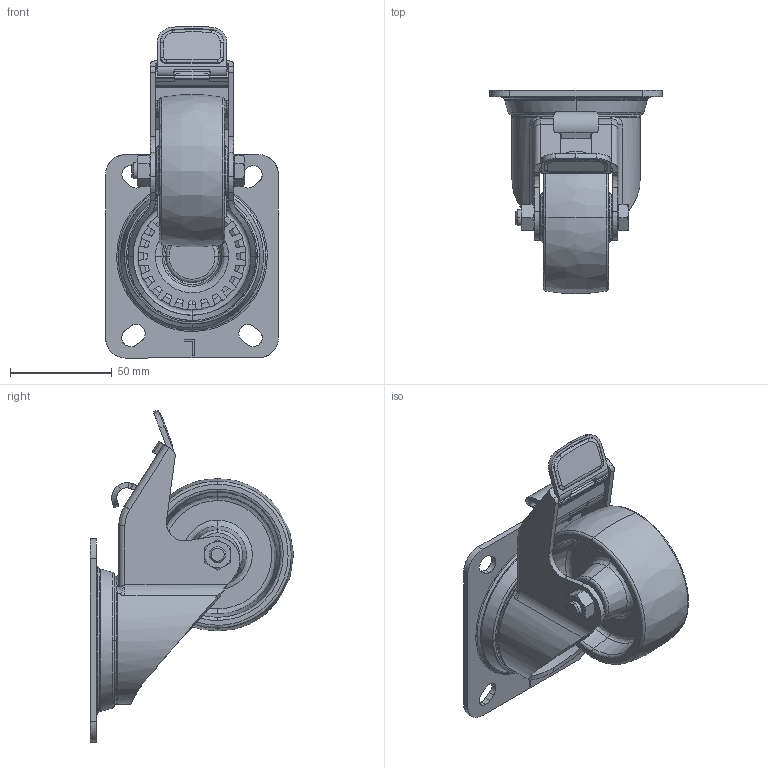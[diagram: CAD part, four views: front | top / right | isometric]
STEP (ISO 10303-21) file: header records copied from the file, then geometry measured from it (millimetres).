
FILE_DESCRIPTION (( 'STEP AP203' ), '1' );
FILE_NAME ('22677_LEN75PLAFESS.STEP', '2018-03-23T07:38:30', ( '' ), ( '' ), 'SwSTEP 2.0', 'SolidWorks 2017', '' );
FILE_SCHEMA (( 'CONFIG_CONTROL_DESIGN' ));
Length unit declared in the file: millimetre
Products named in the file (1): 22677_LEN75PLAFESS
Bounding box: 85 x 99.85 x 163.12 mm (x, y, z)
Volume: 171505.7 mm3; surface area: 74520.4 mm2
Topology: 3 solids, 5 shells, 1753 faces, 4737 edges, 3082 vertices
Faces by surface type: plane 775, bspline 619, cylinder 298, cone 61
Entity records: 81478 total; most frequent: CARTESIAN_POINT 43484, ORIENTED_EDGE 9456, DIRECTION 5141, EDGE_CURVE 4728, VERTEX_POINT 3082, LINE 2273, VECTOR 2273, B_SPLINE_CURVE_WITH_KNOTS 2103
